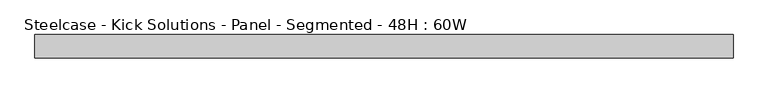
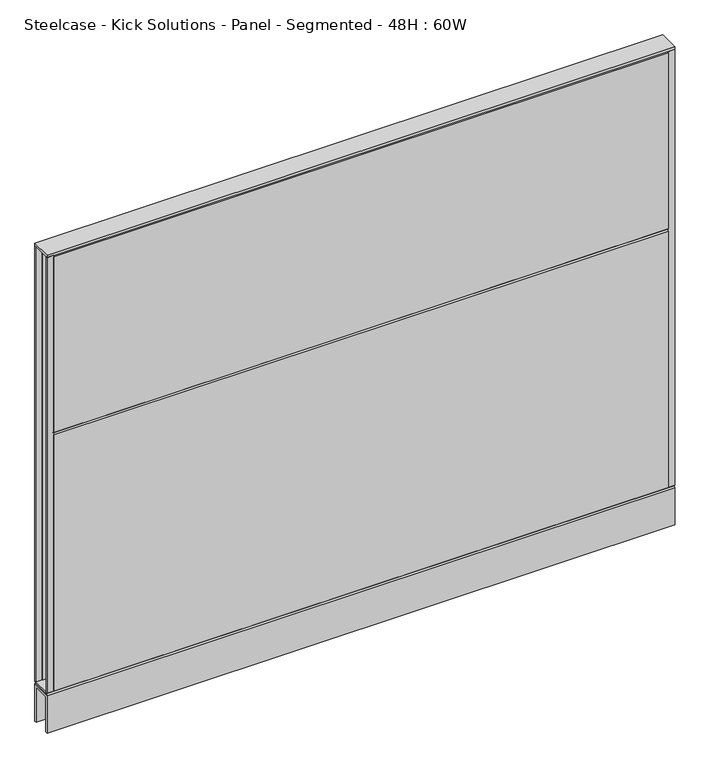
"""IFC4 building model written with IfcOpenShell, lengths in millimetres: furniture geometry, Steelcase - Kick Solutions - Panel - Segmented - 48H : 60W."""

from ifc_helpers import new_model, si_unit, frame, origin, place, context, project, spatial, polyline, outline, extrude, source, transform, mapped, element, save


def steelcase_kick_solutions_panel_segmented_48h_60w_71f869a7(model_context):
    return source(origin(), model_context, "Body", "SweptSolid", [
        extrude(outline(polyline([(1.5e-06, 101.600003), (-3.175, 101.600003), (-3.175, 1219.2), (1.5e-06, 1216.1188448), (1.5e-06, 101.600003)])), frame((15.8749996, 0.0, 0.0), z_axis=(1.0, 0.0, 0.0), x_axis=(0.0, 1.0, 0.0)), (0.0, 0.0, 1.0), 1492.2500008),
        extrude(outline(polyline([(-50.8000015, 765.0811552), (-50.8000015, 1216.1188448), (-47.625, 1219.2), (-47.625, 762.0), (-50.8000015, 765.0811552)])), frame((15.8749996, 0.0, 0.0), z_axis=(1.0, 0.0, 0.0), x_axis=(0.0, 1.0, 0.0)), (0.0, 0.0, 1.0), 1492.2500008),
        extrude(outline(polyline([(-50.8000015, 101.600003), (-50.8000015, 758.9188448), (-47.625, 762.0), (-47.625, 101.600003), (-50.8000015, 101.600003)])), frame((15.8749996, 0.0, 0.0), z_axis=(1.0, 0.0, 0.0), x_axis=(0.0, 1.0, 0.0)), (0.0, 0.0, 1.0), 1492.2500008),
        extrude(outline(polyline([(1524.0, -3.1750015), (1508.1250004, -3.1750015), (1508.1250004, 0.0), (1524.0, 0.0), (1524.0, -3.1750015)])), frame((0.0, 0.0, 101.7169049), z_axis=(0.0, 0.0, 1.0), x_axis=(1.0, 0.0, 0.0)), (0.0, 0.0, 1.0), 1117.599997),
        extrude(outline(polyline([(15.8749996, -50.8000015), (0.0, -50.8000015), (0.0, -47.625), (15.8749996, -47.625), (15.8749996, -50.8000015)])), frame((0.0, 0.0, 101.7169049), z_axis=(0.0, 0.0, 1.0), x_axis=(1.0, 0.0, 0.0)), (0.0, 0.0, 1.0), 1117.599997),
        extrude(outline(polyline([(-50.7995075, 101.7169049), (-0.000494, 101.7169049), (-3.0583512, 98.5421458), (-47.7416503, 98.5421458), (-50.7995075, 101.7169049)])), frame((0.0, 0.0, 0.0), z_axis=(1.0, 0.0, 0.0), x_axis=(0.0, 1.0, 0.0)), (0.0, 0.0, 1.0), 1524.0),
        extrude(outline(polyline([(1524.0, 0.0), (1524.0, -50.8000015), (0.0, -50.8000015), (0.0, 0.0), (1524.0, 0.0)])), frame((0.0, 0.0, 1219.3169018), z_axis=(0.0, 0.0, 1.0), x_axis=(1.0, 0.0, 0.0)), (0.0, 0.0, 1.0), 6.35),
        extrude(outline(polyline([(15.8749996, -3.1750015), (0.0, -3.1750015), (0.0, 0.0), (15.8749996, 0.0), (15.8749996, -3.1750015)])), frame((0.0, 0.0, 101.7169049), z_axis=(0.0, 0.0, 1.0), x_axis=(1.0, 0.0, 0.0)), (0.0, 0.0, 1.0), 1117.599997),
        extrude(outline(polyline([(1524.0, -50.8000015), (1508.1250004, -50.8000015), (1508.1250004, -47.625), (1524.0, -47.625), (1524.0, -50.8000015)])), frame((0.0, 0.0, 101.7169049), z_axis=(0.0, 0.0, 1.0), x_axis=(1.0, 0.0, 0.0)), (0.0, 0.0, 1.0), 1117.599997),
        extrude(outline(polyline([(-50.8000015, 95.3668927), (-47.6247484, 98.5421458), (-3.1752531, 98.5421458), (0.0, 95.3668927), (-50.8000015, 95.3668927)])), frame((0.0, 0.0, 0.0), z_axis=(1.0, 0.0, 0.0), x_axis=(0.0, 1.0, 0.0)), (0.0, 0.0, 1.0), 1524.0),
        extrude(outline(polyline([(0.0, 0.0), (-5.08, 0.0), (-5.08, 90.2869018), (-45.7200015, 90.2869018), (-45.7200015, 0.0), (-50.8000015, 0.0), (-50.8000015, 95.3669018), (0.0, 95.3669018), (0.0, 0.0)])), frame((0.0, 0.0, 0.0), z_axis=(1.0, 0.0, 0.0), x_axis=(0.0, 1.0, 0.0)), (0.0, 0.0, 1.0), 1524.0),
    ])


if __name__ == "__main__":
    model = new_model("IFC4")
    model_context = context("Model", 3, world=origin())
    ifc_project = project(units=[si_unit("LENGTHUNIT", "METRE", prefix="MILLI")], contexts=[model_context])
    site = spatial("IfcSite", under=ifc_project)
    building = spatial("IfcBuilding", under=site)
    placement = place(None, origin())
    steelcase_kick_solutions_panel_segmented_48h_60w_shape = steelcase_kick_solutions_panel_segmented_48h_60w_71f869a7(model_context)
    element("IfcFurniture", 1, ObjectType="Steelcase - Kick Solutions - Panel - Segmented - 48H : 60W", at=placement, inside=building, context=model_context, shape_type="MappedRepresentation", body=[
        mapped(steelcase_kick_solutions_panel_segmented_48h_60w_shape, transform((0.0, 0.0, 0.0), x_axis=(1.0, 0.0, 0.0), y_axis=(0.0, 1.0, 0.0), z_axis=(0.0, 0.0, 1.0))),
    ])
    save(model, "model.ifc")
